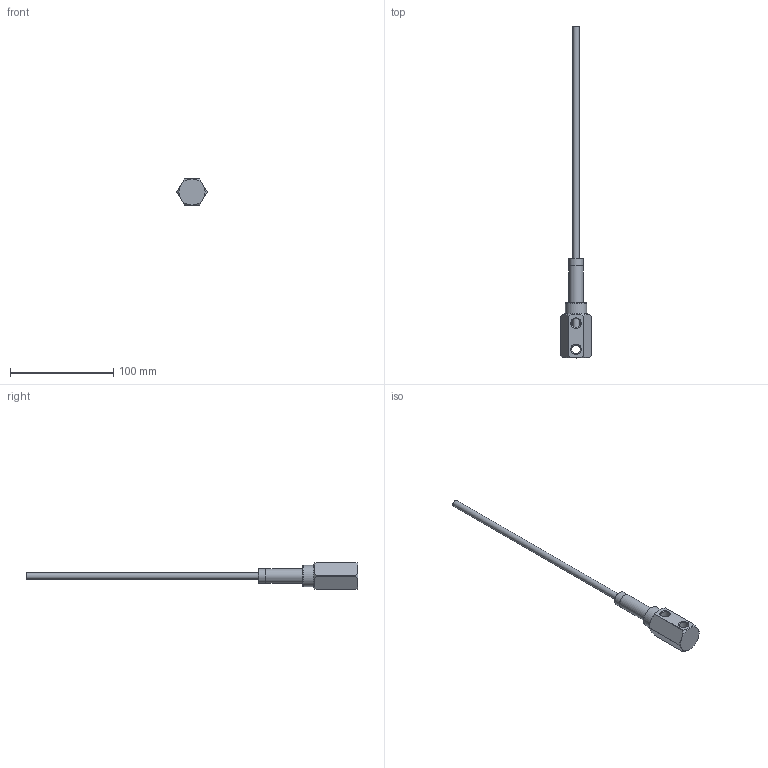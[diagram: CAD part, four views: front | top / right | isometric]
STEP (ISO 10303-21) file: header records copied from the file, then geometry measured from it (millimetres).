
FILE_DESCRIPTION(/* description */ (''),/* implementation_level */ '2;1');
FILE_NAME(/* name */ 'C:/Users/drich/Desktop/141N v1.step',/* time_stamp */ '2020-01-15T19:40:10-06:00',/* author */ (''),/* organization */ (''),/* preprocessor_version */ 'ST-DEVELOPER v18',/* originating_system */ 'Autodesk Translation Framework v8.12.0.6',/* authorisation */ '');
FILE_SCHEMA (('AUTOMOTIVE_DESIGN { 1 0 10303 214 3 1 1 }'));
Length unit declared in the file: inch
Products named in the file (4): 141N; 141H; SSPN14-2; 250T-12
Assembly tree (3 placements, depth 2):
  141N
    141H
    SSPN14-2
    250T-12
Bounding box: 29.26 x 321.39 x 25.4 mm (x, y, z)
Volume: 30939.3 mm3; surface area: 21175.6 mm2
Topology: 3 solids, 3 shells, 49 faces, 132 edges, 89 vertices
Faces by surface type: cylinder 19, plane 15, cone 13, torus 2
Full cylindrical faces by diameter (mm): 4.318 x1, 5.474 x1, 6.243 x1, 8.707 x3, 9.246 x1, 11.668 x1, 13.665 x2, 13.716 x1, 20.625 x1
Entity records: 1795 total; most frequent: CARTESIAN_POINT 394, DIRECTION 297, ORIENTED_EDGE 264, EDGE_CURVE 132, AXIS2_PLACEMENT_3D 130, VERTEX_POINT 89, CIRCLE 74, EDGE_LOOP 61
